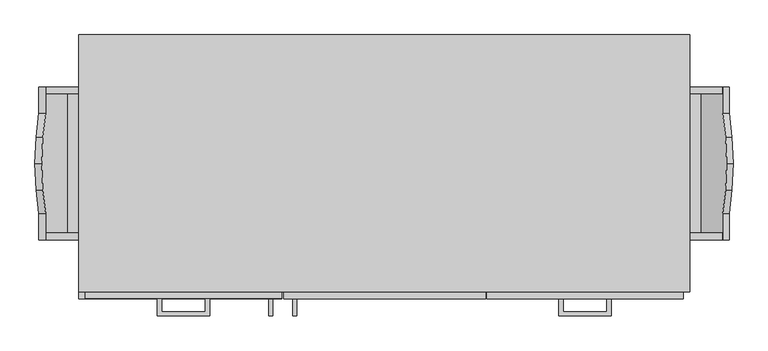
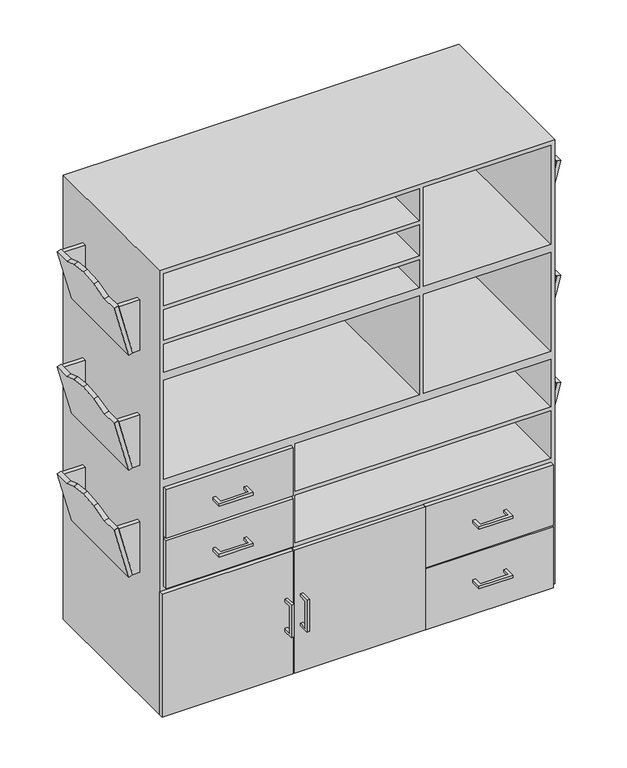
"""IFC4 building model written with IfcOpenShell, lengths in millimetres: furniture geometry, BIMHealth-Coil_Storage_Cabinet-LOD2A-v1 : BIMHealth-Coil_Storage_Cabinet-LOD2A-v1."""

from ifc_helpers import new_model, si_unit, frame, origin, origin_with_axes, place, context, project, spatial, polyline, outline, extrude, faceted_brep, source, transform, mapped, element, save


def furniture_fa404917(model_context):
    return source(origin(), model_context, "Body", "SolidModel", [
        extrude(outline(polyline([(700.0, 167.5), (725.0, 167.5), (725.0, -152.499335), (700.0, -152.499335), (700.0, 167.5)])), frame((0.0, 0.0, 1290.0), z_axis=(0.0, 0.0, 1.0), x_axis=(1.0, 0.0, 0.0)), (0.0, 0.0, 1.0), 15.0),
        extrude(outline(polyline([(700.0, 167.5), (725.0, 167.5), (725.0, -152.499335), (700.0, -152.499335), (700.0, 167.5)])), frame((0.0, 0.0, 860.0), z_axis=(0.0, 0.0, 1.0), x_axis=(1.0, 0.0, 0.0)), (0.0, 0.0, 1.0), 15.0),
        extrude(outline(polyline([(700.0, 167.5), (725.0, 167.5), (725.0, -152.499335), (700.0, -152.499335), (700.0, 167.5)])), frame((0.0, 0.0, 460.0), z_axis=(0.0, 0.0, 1.0), x_axis=(1.0, 0.0, 0.0)), (0.0, 0.0, 1.0), 15.0),
        extrude(outline(polyline([(460.0, 700.0), (460.0, 725.0), (650.0, 775.9103466), (650.0, 700.0), (610.0, 700.0), (460.0, 700.0)])), frame((0.0, 167.5, 0.0), z_axis=(0.0, 1.0, 0.0), x_axis=(0.0, 0.0, 1.0)), (0.0, 0.0, 1.0), 15.0),
        extrude(outline(polyline([(460.0, 700.0), (460.0, 725.0), (650.0, 775.9103466), (650.0, 700.0), (610.0, 700.0), (460.0, 700.0)])), frame((0.0, -167.499335, 0.0), z_axis=(0.0, 1.0, 0.0), x_axis=(0.0, 0.0, 1.0)), (0.0, 0.0, 1.0), 15.0),
        extrude(outline(polyline([(860.0, 700.0), (860.0, 725.0), (1050.0, 775.9103466), (1050.0, 700.0), (1010.0, 700.0), (860.0, 700.0)])), frame((0.0, 167.5, 0.0), z_axis=(0.0, 1.0, 0.0), x_axis=(0.0, 0.0, 1.0)), (0.0, 0.0, 1.0), 15.0),
        extrude(outline(polyline([(860.0, 700.0), (860.0, 725.0), (1050.0, 775.9103466), (1050.0, 700.0), (1010.0, 700.0), (860.0, 700.0)])), frame((0.0, -167.499335, 0.0), z_axis=(0.0, 1.0, 0.0), x_axis=(0.0, 0.0, 1.0)), (0.0, 0.0, 1.0), 15.0),
        extrude(outline(polyline([(1290.0, 700.0), (1290.0, 725.0), (1480.0, 775.9103466), (1480.0, 700.0), (1440.0, 700.0), (1290.0, 700.0)])), frame((0.0, 167.5, 0.0), z_axis=(0.0, 1.0, 0.0), x_axis=(0.0, 0.0, 1.0)), (0.0, 0.0, 1.0), 15.0),
        extrude(outline(polyline([(1290.0, 700.0), (1290.0, 725.0), (1480.0, 775.9103466), (1480.0, 700.0), (1440.0, 700.0), (1290.0, 700.0)])), frame((0.0, -167.499335, 0.0), z_axis=(0.0, 1.0, 0.0), x_axis=(0.0, 0.0, 1.0)), (0.0, 0.0, 1.0), 15.0),
        extrude(outline(polyline([(-700.0, 167.5), (-700.0, -152.499335), (-725.0, -152.499335), (-725.0, 167.5), (-700.0, 167.5)])), frame((0.0, 0.0, 1290.0), z_axis=(0.0, 0.0, 1.0), x_axis=(1.0, 0.0, 0.0)), (0.0, 0.0, 1.0), 15.0),
        extrude(outline(polyline([(-700.0, 167.5), (-700.0, -152.499335), (-725.0, -152.499335), (-725.0, 167.5), (-700.0, 167.5)])), frame((0.0, 0.0, 860.0), z_axis=(0.0, 0.0, 1.0), x_axis=(1.0, 0.0, 0.0)), (0.0, 0.0, 1.0), 15.0),
        extrude(outline(polyline([(-700.0, 167.5), (-700.0, -152.499335), (-725.0, -152.499335), (-725.0, 167.5), (-700.0, 167.5)])), frame((0.0, 0.0, 460.0), z_axis=(0.0, 0.0, 1.0), x_axis=(1.0, 0.0, 0.0)), (0.0, 0.0, 1.0), 15.0),
        extrude(outline(polyline([(460.0, -700.0), (610.0, -700.0), (650.0, -700.0), (650.0, -775.9103466), (460.0, -725.0), (460.0, -700.0)])), frame((0.0, 167.5, 0.0), z_axis=(0.0, 1.0, 0.0), x_axis=(0.0, 0.0, 1.0)), (0.0, 0.0, 1.0), 15.0),
        extrude(outline(polyline([(460.0, -700.0), (610.0, -700.0), (650.0, -700.0), (650.0, -775.9103466), (460.0, -725.0), (460.0, -700.0)])), frame((0.0, -167.499335, 0.0), z_axis=(0.0, 1.0, 0.0), x_axis=(0.0, 0.0, 1.0)), (0.0, 0.0, 1.0), 15.0),
        extrude(outline(polyline([(860.0, -700.0), (1010.0, -700.0), (1050.0, -700.0), (1050.0, -775.9103466), (860.0, -725.0), (860.0, -700.0)])), frame((0.0, 167.5, 0.0), z_axis=(0.0, 1.0, 0.0), x_axis=(0.0, 0.0, 1.0)), (0.0, 0.0, 1.0), 15.0),
        extrude(outline(polyline([(860.0, -700.0), (1010.0, -700.0), (1050.0, -700.0), (1050.0, -775.9103466), (860.0, -725.0), (860.0, -700.0)])), frame((0.0, -167.499335, 0.0), z_axis=(0.0, 1.0, 0.0), x_axis=(0.0, 0.0, 1.0)), (0.0, 0.0, 1.0), 15.0),
        extrude(outline(polyline([(1290.0, -700.0), (1440.0, -700.0), (1480.0, -700.0), (1480.0, -775.9103466), (1290.0, -725.0), (1290.0, -700.0)])), frame((0.0, 167.5, 0.0), z_axis=(0.0, 1.0, 0.0), x_axis=(0.0, 0.0, 1.0)), (0.0, 0.0, 1.0), 15.0),
        extrude(outline(polyline([(1290.0, -700.0), (1440.0, -700.0), (1480.0, -700.0), (1480.0, -775.9103466), (1290.0, -725.0), (1290.0, -700.0)])), frame((0.0, -167.499335, 0.0), z_axis=(0.0, 1.0, 0.0), x_axis=(0.0, 0.0, 1.0)), (0.0, 0.0, 1.0), 15.0),
        extrude(outline(polyline([(0.0, 0.0), (0.0, -350.0), (-200.0000001, -350.0), (-200.0000001, -290.0), (-225.3570957, -235.6215328), (-235.3570958, -175.0), (-225.3570957, -114.3784672), (-200.0000001, -60.0), (-200.0000001, 0.0), (0.0, 0.0)])), frame((738.6354249, -167.5, 1286.1177143), z_axis=(-0.9659258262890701, 0.0, 0.2588190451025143), x_axis=(-0.2588190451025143, 0.0, -0.9659258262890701)), (0.0, 0.0, 1.0), 15.0),
        extrude(outline(polyline([(0.0, 0.0), (0.0, -350.0), (-200.0000001, -350.0), (-200.0000001, -290.0), (-225.3570957, -235.6215328), (-235.3570958, -175.0), (-225.3570957, -114.3784672), (-200.0000001, -60.0), (-200.0000001, 0.0), (0.0, 0.0)])), frame((738.6354249, -167.5, 856.1177143), z_axis=(-0.9659258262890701, 0.0, 0.2588190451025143), x_axis=(-0.2588190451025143, 0.0, -0.9659258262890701)), (0.0, 0.0, 1.0), 15.0),
        extrude(outline(polyline([(0.0, 0.0), (0.0, -350.0), (-200.0000001, -350.0), (-200.0000001, -290.0), (-225.3570957, -235.6215328), (-235.3570958, -175.0), (-225.3570957, -114.3784672), (-200.0000001, -60.0), (-200.0000001, 0.0), (0.0, 0.0)])), frame((738.6354249, -167.5, 456.1177143), z_axis=(-0.9659258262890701, 0.0, 0.2588190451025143), x_axis=(-0.2588190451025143, 0.0, -0.9659258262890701)), (0.0, 0.0, 1.0), 15.0),
        extrude(outline(polyline([(350.0, 0.0), (350.0, -200.0), (290.0, -200.0), (235.6215328, -225.3570957), (175.0, -235.3570958), (114.3784672, -225.3570957), (60.0, -200.0), (0.0, -200.0), (0.0, 0.0), (350.0, 0.0)])), frame((-739.4888874, 182.5, 1286.1177143), z_axis=(0.9659258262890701, 0.0, 0.2588190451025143), x_axis=(0.0, -1.0, 0.0)), (0.0, 0.0, 1.0), 15.8544316),
        extrude(outline(polyline([(350.0, 0.0), (350.0, -200.0), (290.0, -200.0), (235.6215328, -225.3570957), (175.0, -235.3570958), (114.3784672, -225.3570957), (60.0, -200.0), (0.0, -200.0), (0.0, 0.0), (350.0, 0.0)])), frame((-739.4888874, 182.5, 856.1177143), z_axis=(0.9659258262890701, 0.0, 0.2588190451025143), x_axis=(0.0, -1.0, 0.0)), (0.0, 0.0, 1.0), 15.0),
        extrude(outline(polyline([(350.0, 0.0), (350.0, -200.0), (290.0, -200.0), (235.6215328, -225.3570957), (175.0, -235.3570958), (114.3784672, -225.3570957), (60.0, -200.0), (0.0, -200.0), (0.0, 0.0), (350.0, 0.0)])), frame((-739.4888874, 182.5, 456.1177143), z_axis=(0.9659258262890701, 0.0, 0.2588190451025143), x_axis=(0.0, -1.0, 0.0)), (0.0, 0.0, 1.0), 15.0),
        extrude(outline(polyline([(-410.0, -302.5), (-400.0, -302.5), (-400.0, -342.5), (-520.0, -342.5), (-520.0, -302.5), (-510.0, -302.5), (-510.0, -332.5), (-410.0, -332.5), (-410.0, -302.5)])), frame((0.0, 0.0, 560.0), z_axis=(0.0, 0.0, 1.0), x_axis=(1.0, 0.0, 0.0)), (0.0, 0.0, 1.0), 10.0),
        extrude(outline(polyline([(-235.0, -302.5), (-685.0, -302.5), (-685.0, -287.5), (-235.0, -287.5), (-235.0, -302.5)])), frame((0.0, 0.0, 475.0), z_axis=(0.0, 0.0, 1.0), x_axis=(1.0, 0.0, 0.0)), (0.0, 0.0, 1.0), 180.0),
        extrude(outline(polyline([(-235.0, -302.5), (-685.0, -302.5), (-685.0, -287.5), (-235.0, -287.5), (-235.0, -302.5)])), frame((0.0, 0.0, 665.0), z_axis=(0.0, 0.0, 1.0), x_axis=(1.0, 0.0, 0.0)), (0.0, 0.0, 1.0), 180.0),
        extrude(outline(polyline([(-410.0, -302.5), (-400.0, -302.5), (-400.0, -342.5), (-520.0, -342.5), (-520.0, -302.5), (-510.0, -302.5), (-510.0, -332.5), (-410.0, -332.5), (-410.0, -302.5)])), frame((0.0, 0.0, 750.0), z_axis=(0.0, 0.0, 1.0), x_axis=(1.0, 0.0, 0.0)), (0.0, 0.0, 1.0), 10.0),
        extrude(outline(polyline([(510.0, -302.5), (520.0, -302.5), (520.0, -342.5), (400.0, -342.5), (400.0, -302.5), (410.0, -302.5), (410.0, -332.5), (510.0, -332.5), (510.0, -302.5)])), frame((0.0, 0.0, 118.75), z_axis=(0.0, 0.0, 1.0), x_axis=(1.0, 0.0, 0.0)), (0.0, 0.0, 1.0), 10.0),
        extrude(outline(polyline([(510.0, -302.5), (520.0, -302.5), (520.0, -342.5), (400.0, -342.5), (400.0, -302.5), (410.0, -302.5), (410.0, -332.5), (510.0, -332.5), (510.0, -302.5)])), frame((0.0, 0.0, 341.25), z_axis=(0.0, 0.0, 1.0), x_axis=(1.0, 0.0, 0.0)), (0.0, 0.0, 1.0), 10.0),
        extrude(outline(polyline([(685.0, -302.5), (235.0, -302.5), (235.0, -287.5), (685.0, -287.5), (685.0, -302.5)])), frame((0.0, 0.0, 232.5), z_axis=(0.0, 0.0, 1.0), x_axis=(1.0, 0.0, 0.0)), (0.0, 0.0, 1.0), 227.5),
        extrude(outline(polyline([(685.0, -302.5), (235.0, -302.5), (235.0, -287.5), (685.0, -287.5), (685.0, -302.5)])), origin_with_axes(), (0.0, 0.0, 1.0), 227.5),
        extrude(outline(polyline([(-302.5, 280.0), (-332.5, 280.0), (-332.5, 180.0), (-302.5, 180.0), (-302.5, 170.0), (-342.5, 170.0), (-342.5, 290.0), (-302.5, 290.0), (-302.5, 280.0)])), frame((-265.0, 0.0, 0.0), z_axis=(1.0, 0.0, 0.0), x_axis=(0.0, 1.0, 0.0)), (0.0, 0.0, 1.0), 10.0),
        extrude(outline(polyline([(-302.5, 280.0), (-332.5, 280.0), (-332.5, 180.0), (-302.5, 180.0), (-302.5, 170.0), (-342.5, 170.0), (-342.5, 290.0), (-302.5, 290.0), (-302.5, 280.0)])), frame((-210.0, 0.0, 0.0), z_axis=(1.0, 0.0, 0.0), x_axis=(0.0, 1.0, 0.0)), (0.0, 0.0, 1.0), 10.0),
        extrude(outline(polyline([(232.4179237, -302.5), (-230.0, -302.5), (-230.0, -287.5), (232.4179237, -287.5), (232.4179237, -302.5)])), origin_with_axes(), (0.0, 0.0, 1.0), 460.0),
        extrude(outline(polyline([(-235.0, -302.5), (-700.0, -302.5), (-700.0, -287.5), (-235.0, -287.5), (-235.0, -302.5)])), origin_with_axes(), (0.0, 0.0, 1.0), 460.0),
        faceted_brep([(700.0, 302.5, 1660.0), (-700.0, 302.5, 1660.0), (-700.0, -287.5, 1660.0), (700.0, -287.5, 1660.0), (-700.0, 302.5, 0.0), (700.0, 302.5, 0.0), (700.0, -287.5, 0.0), (-700.0, -287.5, 0.0), (220.0, 287.5, 445.0), (-685.0, 287.5, 445.0), (-685.0, 287.5, 15.0), (220.0, 287.5, 15.0), (235.0, 287.5, 15.0), (685.0, 287.5, 15.0), (685.0, 287.5, 445.0), (235.0, 287.5, 445.0), (-235.0, 287.5, 845.0), (-685.0, 287.5, 845.0), (-685.0, 287.5, 475.0), (-235.0, 287.5, 475.0), (220.0, 287.5, 1245.0), (-685.0, 287.5, 1245.0), (-685.0, 287.5, 875.0), (220.0, 287.5, 875.0), (235.0, 287.5, 875.0), (685.0, 287.5, 875.0), (685.0, 287.5, 1245.0), (235.0, 287.5, 1245.0), (235.0, 287.5, 1275.0), (685.0, 287.5, 1275.0), (685.0, 287.5, 1645.0), (235.0, 287.5, 1645.0), (685.0, 287.5, 475.0), (685.0, 287.5, 652.5), (-220.0, 287.5, 652.5), (-220.0, 287.5, 475.0), (-220.0, 287.5, 667.5), (685.0, 287.5, 667.5), (685.0, 287.5, 845.0), (-220.0, 287.5, 845.0), (-685.0, 287.5, 1525.0), (220.0, 287.5, 1525.0), (220.0, 287.5, 1645.0), (-685.0, 287.5, 1645.0), (220.0, 287.5, 1395.0), (220.0, 287.5, 1510.0), (-685.0, 287.5, 1510.0), (-685.0, 287.5, 1395.0), (220.0, 287.5, 1380.0), (-685.0, 287.5, 1380.0), (-685.0, 287.5, 1275.0), (220.0, 287.5, 1275.0), (-685.0, -287.5, 445.0), (220.0, -287.5, 445.0), (220.0, -287.5, 15.0), (-685.0, -287.5, 15.0), (685.0, -287.5, 15.0), (235.0, -287.5, 15.0), (235.0, -287.5, 445.0), (685.0, -287.5, 445.0), (-685.0, -287.5, 845.0), (-235.0, -287.5, 845.0), (-235.0, -287.5, 475.0), (-685.0, -287.5, 475.0), (-685.0, -287.5, 1245.0), (220.0, -287.5, 1245.0), (220.0, -287.5, 875.0), (-685.0, -287.5, 875.0), (685.0, -287.5, 875.0), (235.0, -287.5, 875.0), (235.0, -287.5, 1245.0), (685.0, -287.5, 1245.0), (685.0, -287.5, 1275.0), (235.0, -287.5, 1275.0), (235.0, -287.5, 1645.0), (685.0, -287.5, 1645.0), (685.0, -287.5, 652.5), (685.0, -287.5, 475.0), (-220.0, -287.5, 475.0), (-220.0, -287.5, 652.5), (685.0, -287.5, 667.5), (-220.0, -287.5, 667.5), (-220.0, -287.5, 845.0), (685.0, -287.5, 845.0), (220.0, -287.5, 1525.0), (-685.0, -287.5, 1525.0), (-685.0, -287.5, 1645.0), (220.0, -287.5, 1645.0), (220.0, -287.5, 1510.0), (220.0, -287.5, 1395.0), (-685.0, -287.5, 1395.0), (-685.0, -287.5, 1510.0), (-685.0, -287.5, 1380.0), (220.0, -287.5, 1380.0), (220.0, -287.5, 1275.0), (-685.0, -287.5, 1275.0)], [[[0, 1, 2, 3]], [[4, 5, 6, 7]], [[0, 3, 6, 5]], [[1, 0, 5, 4]], [[2, 1, 4, 7]], [[8, 9, 10, 11]], [[12, 13, 14, 15]], [[16, 17, 18, 19]], [[20, 21, 22, 23]], [[24, 25, 26, 27]], [[28, 29, 30, 31]], [[32, 33, 34, 35]], [[36, 37, 38, 39]], [[40, 41, 42, 43]], [[44, 45, 46, 47]], [[48, 49, 50, 51]], [[7, 6, 3, 2], [52, 53, 54, 55], [56, 57, 58, 59], [60, 61, 62, 63], [64, 65, 66, 67], [68, 69, 70, 71], [72, 73, 74, 75], [76, 77, 78, 79], [80, 81, 82, 83], [84, 85, 86, 87], [88, 89, 90, 91], [92, 93, 94, 95]], [[53, 52, 9, 8]], [[54, 53, 8, 11]], [[55, 54, 11, 10]], [[52, 55, 10, 9]], [[57, 56, 13, 12]], [[58, 57, 12, 15]], [[59, 58, 15, 14]], [[56, 59, 14, 13]], [[61, 60, 17, 16]], [[62, 61, 16, 19]], [[63, 62, 19, 18]], [[60, 63, 18, 17]], [[65, 64, 21, 20]], [[66, 65, 20, 23]], [[67, 66, 23, 22]], [[64, 67, 22, 21]], [[69, 68, 25, 24]], [[70, 69, 24, 27]], [[71, 70, 27, 26]], [[68, 71, 26, 25]], [[73, 72, 29, 28]], [[74, 73, 28, 31]], [[75, 74, 31, 30]], [[72, 75, 30, 29]], [[77, 76, 33, 32]], [[78, 77, 32, 35]], [[79, 78, 35, 34]], [[76, 79, 34, 33]], [[81, 80, 37, 36]], [[82, 81, 36, 39]], [[83, 82, 39, 38]], [[80, 83, 38, 37]], [[85, 84, 41, 40]], [[86, 85, 40, 43]], [[87, 86, 43, 42]], [[84, 87, 42, 41]], [[89, 88, 45, 44]], [[90, 89, 44, 47]], [[91, 90, 47, 46]], [[88, 91, 46, 45]], [[93, 92, 49, 48]], [[94, 93, 48, 51]], [[95, 94, 51, 50]], [[92, 95, 50, 49]]]),
    ])


if __name__ == "__main__":
    model = new_model("IFC4")
    model_context = context("Model", 3, world=origin())
    ifc_project = project(units=[si_unit("LENGTHUNIT", "METRE", prefix="MILLI")], contexts=[model_context])
    site = spatial("IfcSite", under=ifc_project)
    building = spatial("IfcBuilding", under=site)
    placement = place(None, origin())
    furniture_shape = furniture_fa404917(model_context)
    element("IfcFurniture", 1, ObjectType="BIMHealth-Coil_Storage_Cabinet-LOD2A-v1 : BIMHealth-Coil_Storage_Cabinet-LOD2A-v1", at=placement, inside=building, context=model_context, shape_type="MappedRepresentation", body=[
        mapped(furniture_shape, transform((0.0, 0.0, 0.0), x_axis=(1.0, 0.0, 0.0), y_axis=(0.0, 1.0, 0.0), z_axis=(0.0, 0.0, 1.0))),
    ])
    save(model, "model.ifc")
